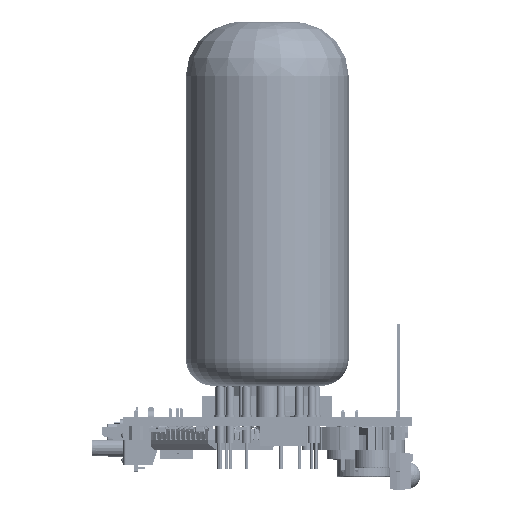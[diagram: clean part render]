
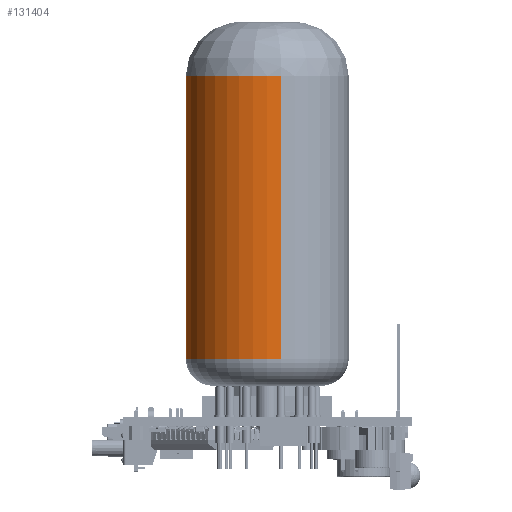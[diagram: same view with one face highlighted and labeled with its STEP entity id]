
A CAD part, left-side view. The second image highlights one B-rep face of the part: STEP entity #131404.
In plain terms, the highlighted cylindrical face has radius 15 mm (diameter 30 mm), a partial arc.
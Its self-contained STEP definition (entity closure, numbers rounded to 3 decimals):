
#131320 = VERTEX_POINT('',#131321);
#131321 = CARTESIAN_POINT('',(4.228,24.025,
    10.809));
#131328 = EDGE_CURVE('',#131329,#131320,#131331,.T.);
#131329 = VERTEX_POINT('',#131330);
#131330 = CARTESIAN_POINT('',(33.772,29.235,
    10.809));
#131331 = CIRCLE('',#131332,15.);
#131332 = AXIS2_PLACEMENT_3D('',#131333,#131334,#131335);
#131333 = CARTESIAN_POINT('',(19.,26.63,
    10.809));
#131334 = DIRECTION('',(0.,0.,1.));
#131335 = DIRECTION('',(0.985,0.174,
    0.));
#131352 = EDGE_CURVE('',#131353,#131355,#131357,.T.);
#131353 = VERTEX_POINT('',#131354);
#131354 = CARTESIAN_POINT('',(4.228,24.025,
    62.809));
#131355 = VERTEX_POINT('',#131356);
#131356 = CARTESIAN_POINT('',(33.772,29.235,
    62.809));
#131357 = CIRCLE('',#131358,15.);
#131358 = AXIS2_PLACEMENT_3D('',#131359,#131360,#131361);
#131359 = CARTESIAN_POINT('',(19.,26.63,
    62.809));
#131360 = DIRECTION('',(0.,0.,-1.));
#131361 = DIRECTION('',(0.985,0.174,
    0.));
#131404 = ADVANCED_FACE('',(#131405),#131421,.T.);
#131405 = FACE_BOUND('',#131406,.T.);
#131406 = EDGE_LOOP('',(#131407,#131408,#131414,#131415));
#131407 = ORIENTED_EDGE('',*,*,#131352,.T.);
#131408 = ORIENTED_EDGE('',*,*,#131409,.T.);
#131409 = EDGE_CURVE('',#131355,#131329,#131410,.T.);
#131410 = LINE('',#131411,#131412);
#131411 = CARTESIAN_POINT('',(33.772,29.235,
    72.809));
#131412 = VECTOR('',#131413,1.);
#131413 = DIRECTION('',(0.,0.,-1.));
#131414 = ORIENTED_EDGE('',*,*,#131328,.T.);
#131415 = ORIENTED_EDGE('',*,*,#131416,.F.);
#131416 = EDGE_CURVE('',#131353,#131320,#131417,.T.);
#131417 = LINE('',#131418,#131419);
#131418 = CARTESIAN_POINT('',(4.228,24.025,
    72.809));
#131419 = VECTOR('',#131420,1.);
#131420 = DIRECTION('',(0.,0.,-1.));
#131421 = CYLINDRICAL_SURFACE('',#131422,15.);
#131422 = AXIS2_PLACEMENT_3D('',#131423,#131424,#131425);
#131423 = CARTESIAN_POINT('',(19.,26.63,
    72.809));
#131424 = DIRECTION('',(0.,0.,-1.));
#131425 = DIRECTION('',(-0.985,-0.174,
    0.));
